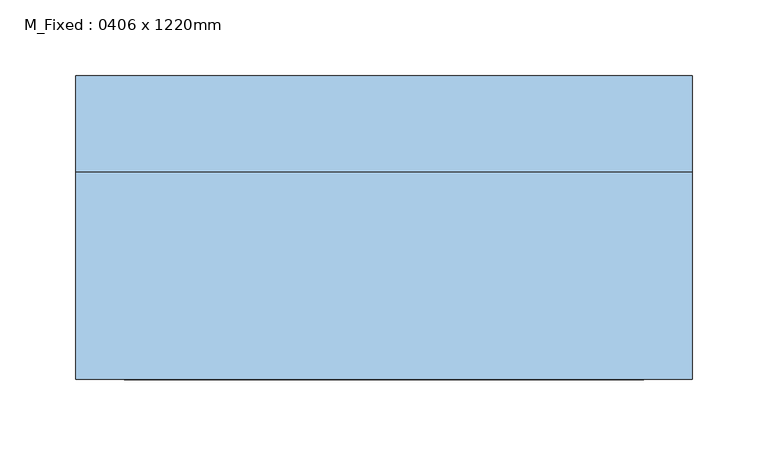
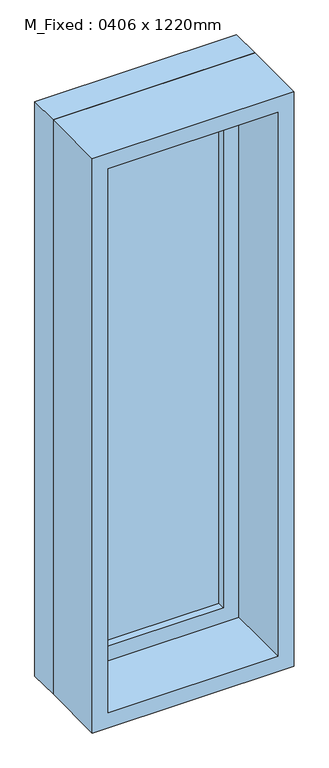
"""IFC4 building model written with IfcOpenShell, lengths in millimetres: window geometry, M_Fixed : 0406 x 1220mm."""

import ifcopenshell
import ifcopenshell.guid

model = None  # the IFC model being written
_history = None  # IfcOwnerHistory: only IFC2X3 demands one
_inside = {}  # id of a spatial element -> (the spatial element, [elements in it])
_under = {}  # id of a project, library or spatial element -> (it, [spatial elements below it])
_declared = {}  # id of a project -> (the project, [libraries it declares])
_typed = {}  # id of a type object -> (the type object, [elements of that type])
_made_of = {}  # id of a material, layer set ... -> (it, [elements and type objects made of it])


def new_model(schema):
    """Start an empty IFC model of exactly this schema.

    Asked for "IFC4X3", IfcOpenShell would pick the latest addendum, in which some entities
    have other attributes; the version numbers below select the first issue.
    IFC2X3 requires an IfcOwnerHistory on every rooted entity: one is made here for all.
    """
    global model, _history
    if schema == "IFC4X3":
        model = ifcopenshell.file(schema_version=(4, 3, 0, 0))
    else:
        model = ifcopenshell.file(schema=schema)
    _inside.clear()
    _under.clear()
    _declared.clear()
    _typed.clear()
    _made_of.clear()
    _history = None
    if model.schema == "IFC2X3":
        org = make("IfcOrganization", Name="unknown")
        user = make(
            "IfcPersonAndOrganization",
            ThePerson=make("IfcPerson", FamilyName="unknown"),
            TheOrganization=org,
        )
        app = make(
            "IfcApplication",
            ApplicationDeveloper=org,
            Version="unknown",
            ApplicationFullName="unknown",
            ApplicationIdentifier="unknown",
        )
        _history = make(
            "IfcOwnerHistory",
            OwningUser=user,
            OwningApplication=app,
            ChangeAction="ADDED",
            CreationDate=0,
        )
    return model


def make(cls, **values):
    """One entity of the class cls with the attributes given. An attribute that is None is left unset."""
    return model.create_entity(
        cls, **{name: value for name, value in values.items() if value is not None}
    )


def rooted(cls, **values):
    """An entity with a GlobalId (a new one), such as an element, a storey or a relation."""
    return make(cls, GlobalId=ifcopenshell.guid.new(), OwnerHistory=_history, **values)


def si_unit(unit_type, name, prefix=None):
    """IfcSIUnit, for example si_unit("LENGTHUNIT", "METRE", prefix="MILLI")."""
    return make("IfcSIUnit", UnitType=unit_type, Prefix=prefix, Name=name)


def assignment(units):
    """IfcUnitAssignment: the units of a project."""
    return None if units is None else make("IfcUnitAssignment", Units=units)


def point(xyz):
    """IfcCartesianPoint."""
    return None if xyz is None else make("IfcCartesianPoint", Coordinates=xyz)


def direction(xyz):
    """IfcDirection."""
    return None if xyz is None else make("IfcDirection", DirectionRatios=xyz)


def frame(location, z_axis=None, x_axis=None):
    """IfcAxis2Placement3D, a coordinate frame: its origin and axes. An axis left out is left unset."""
    return make(
        "IfcAxis2Placement3D",
        Location=point(location),
        Axis=direction(z_axis),
        RefDirection=direction(x_axis),
    )


def origin():
    """The frame at (0, 0, 0) with its axes left unset."""
    return frame((0.0, 0.0, 0.0))


def place(relative_to, where):
    """IfcLocalPlacement: puts the frame where relative to a parent placement (None: the world)."""
    return make(
        "IfcLocalPlacement", PlacementRelTo=relative_to, RelativePlacement=where
    )


def context(
    kind, dimensions, precision=None, world=None, true_north=None, identifier=None
):
    """IfcGeometricRepresentationContext, for example the 3D "Model" context."""
    return make(
        "IfcGeometricRepresentationContext",
        ContextIdentifier=identifier,
        ContextType=kind,
        CoordinateSpaceDimension=dimensions,
        Precision=precision,
        WorldCoordinateSystem=world,
        TrueNorth=true_north,
    )


def project(units=None, contexts=None):
    """IfcProject with its units and contexts."""
    return rooted(
        "IfcProject",
        Name="project",
        RepresentationContexts=contexts,
        UnitsInContext=assignment(units),
    )


def spatial(cls, under=None, at=None, **own):
    """A site, building, storey or space (cls), placed at a placement, below another one or the project."""
    s = rooted(cls, ObjectPlacement=at, **own)
    if under is not None:
        _under.setdefault(under.id(), (under, []))[1].append(s)
    return s


def polyline(points):
    """IfcPolyline through the points."""
    return make("IfcPolyline", Points=[point(p) for p in points])


def outline(outer, holes=None, kind="AREA"):
    """IfcArbitraryClosedProfileDef: a profile drawn as a closed curve; with holes, ...WithVoids."""
    if holes is None:
        return make("IfcArbitraryClosedProfileDef", ProfileType=kind, OuterCurve=outer)
    return make(
        "IfcArbitraryProfileDefWithVoids",
        ProfileType=kind,
        OuterCurve=outer,
        InnerCurves=holes,
    )


def extrude(swept, where, along, depth):
    """IfcExtrudedAreaSolid: the profile swept, set in the frame where, extruded along a direction by depth."""
    return make(
        "IfcExtrudedAreaSolid",
        SweptArea=swept,
        Position=where,
        ExtrudedDirection=direction(along),
        Depth=depth,
    )


def shape(context_of_items, identifier, shape_type, items):
    """IfcShapeRepresentation: the items that make up one representation, for example the "Body"."""
    return make(
        "IfcShapeRepresentation",
        ContextOfItems=context_of_items,
        RepresentationIdentifier=identifier,
        RepresentationType=shape_type,
        Items=items,
    )


def source(mapping_origin, context_of_items, identifier, shape_type, items):
    """IfcRepresentationMap: a shape defined once, which mapped items show again and again."""
    return make(
        "IfcRepresentationMap",
        MappingOrigin=mapping_origin,
        MappedRepresentation=shape(context_of_items, identifier, shape_type, items),
    )


def transform(
    local_origin,
    x_axis=None,
    y_axis=None,
    z_axis=None,
    scale=None,
    scale2=None,
    scale3=None,
    uniform=True,
):
    """IfcCartesianTransformationOperator3D, or its non-uniform kind. x_axis, y_axis, z_axis: its Axis1, 2, 3."""
    if uniform:
        return make(
            "IfcCartesianTransformationOperator3D",
            Axis1=direction(x_axis),
            Axis2=direction(y_axis),
            LocalOrigin=point(local_origin),
            Scale=scale,
            Axis3=direction(z_axis),
        )
    return make(
        "IfcCartesianTransformationOperator3DnonUniform",
        Axis1=direction(x_axis),
        Axis2=direction(y_axis),
        LocalOrigin=point(local_origin),
        Scale=scale,
        Axis3=direction(z_axis),
        Scale2=scale2,
        Scale3=scale3,
    )


def mapped(mapping_source, mapping_target):
    """IfcMappedItem: shows the shape of a source again, moved by a transform."""
    return make(
        "IfcMappedItem", MappingSource=mapping_source, MappingTarget=mapping_target
    )


def made_of(thing, what):
    """Note that an element or type object is made of a material, layer set ...; save() writes the relation."""
    if what is not None:
        _made_of.setdefault(what.id(), (what, []))[1].append(thing)
    return thing


def element(
    cls,
    number,
    at=None,
    inside=None,
    cuts=None,
    type_object=None,
    material=None,
    context=None,
    identifier="Body",
    shape_type=None,
    held_by="IfcProductDefinitionShape",
    body=None,
    shapes=None,
    **own,
):
    """One element of the class cls, such as IfcWall. Its Tag is "e" and its number.

    at: its placement. inside: the storey or other place that contains it. cuts: it is an
    opening in that element (IfcRelVoidsElement). A single representation is given by context,
    identifier, shape_type and body (its items); several are given by shapes. held_by: the class
    of the entity that holds the representations. save() writes the other relations.
    """
    e = rooted(cls, Tag="e%d" % number, ObjectPlacement=at, **own)
    if body is not None:
        shapes = [shape(context, identifier, shape_type, body)]
    if shapes is not None:
        e.Representation = make(held_by, Representations=shapes)
    if inside is not None:
        _inside.setdefault(inside.id(), (inside, []))[1].append(e)
    if cuts is not None:
        rooted(
            "IfcRelVoidsElement", RelatingBuildingElement=cuts, RelatedOpeningElement=e
        )
    if type_object is not None:
        _typed.setdefault(type_object.id(), (type_object, []))[1].append(e)
    return made_of(e, material)


def aggregate(whole, parts):
    """IfcRelAggregates: a whole, such as a stair, and the parts it consists of."""
    return rooted("IfcRelAggregates", RelatingObject=whole, RelatedObjects=parts)


def save(model, path):
    """Write the relations noted so far, then the file.

    IfcRelAggregates (storeys below a building ...), IfcRelContainedInSpatialStructure (elements
    in a storey), IfcRelDefinesByType, IfcRelAssociatesMaterial and IfcRelDeclares: one each for
    every whole, place, type object, material and project.
    """
    for whole, parts in _under.values():
        aggregate(whole, parts)
    for where, things in _inside.values():
        rooted(
            "IfcRelContainedInSpatialStructure",
            RelatedElements=things,
            RelatingStructure=where,
        )
    for kind, things in _typed.values():
        rooted("IfcRelDefinesByType", RelatedObjects=things, RelatingType=kind)
    for what, things in _made_of.values():
        rooted("IfcRelAssociatesMaterial", RelatedObjects=things, RelatingMaterial=what)
    for by, libraries in _declared.values():
        rooted("IfcRelDeclares", RelatingContext=by, RelatedDefinitions=libraries)
    model.write(path)


def m_fixed_0406_x_1220mm_71a1fb2c(model_context):
    return source(origin(), model_context, "Body", "SweptSolid", [
        extrude(outline(polyline([(-140.0, 78.0), (140.0, 78.0), (140.0, 66.0), (-140.0, 66.0), (-140.0, 78.0)])), frame((0.0, 0.0, 978.0), z_axis=(0.0, 0.0, 1.0), x_axis=(1.0, 0.0, 0.0)), (0.0, 0.0, 1.0), 1094.0),
        extrude(outline(polyline([(2116.0, -184.0), (934.0, -184.0), (934.0, 184.0), (2116.0, 184.0), (2116.0, -184.0)]), holes=[polyline([(2072.0, -140.0), (2072.0, 140.0), (978.0, 140.0), (978.0, -140.0), (2072.0, -140.0)])]), frame((0.0, 50.0, 0.0), z_axis=(0.0, 1.0, 0.0), x_axis=(0.0, 0.0, 1.0)), (0.0, 0.0, 1.0), 44.0),
        extrude(outline(polyline([(2135.0, -203.0), (915.0, -203.0), (915.0, 203.0), (2135.0, 203.0), (2135.0, -203.0)]), holes=[polyline([(2116.0, -184.0), (2116.0, 184.0), (934.0, 184.0), (934.0, -184.0), (2116.0, -184.0)])]), frame((0.0, 50.0, 0.0), z_axis=(0.0, 1.0, 0.0), x_axis=(0.0, 0.0, 1.0)), (0.0, 0.0, 1.0), 63.0),
        extrude(outline(polyline([(2135.0, -203.0), (915.0, -203.0), (915.0, 203.0), (2135.0, 203.0), (2135.0, -203.0)]), holes=[polyline([(2103.0, -171.0), (2103.0, 171.0), (947.0, 171.0), (947.0, -171.0), (2103.0, -171.0)])]), frame((0.0, -87.0, 0.0), z_axis=(0.0, 1.0, 0.0), x_axis=(0.0, 0.0, 1.0)), (0.0, 0.0, 1.0), 137.0),
    ])


if __name__ == "__main__":
    model = new_model("IFC4")
    model_context = context("Model", 3, world=origin())
    ifc_project = project(units=[si_unit("LENGTHUNIT", "METRE", prefix="MILLI")], contexts=[model_context])
    site = spatial("IfcSite", under=ifc_project)
    building = spatial("IfcBuilding", under=site)
    placement = place(None, origin())
    m_fixed_0406_x_1220mm_shape = m_fixed_0406_x_1220mm_71a1fb2c(model_context)
    element("IfcWindow", 1, ObjectType="M_Fixed : 0406 x 1220mm", at=placement, inside=building, context=model_context, shape_type="MappedRepresentation", body=[
        mapped(m_fixed_0406_x_1220mm_shape, transform((0.0, 0.0, 0.0), x_axis=(1.0, 0.0, 0.0), y_axis=(0.0, 1.0, 0.0), z_axis=(0.0, 0.0, 1.0))),
    ])
    save(model, "model.ifc")
